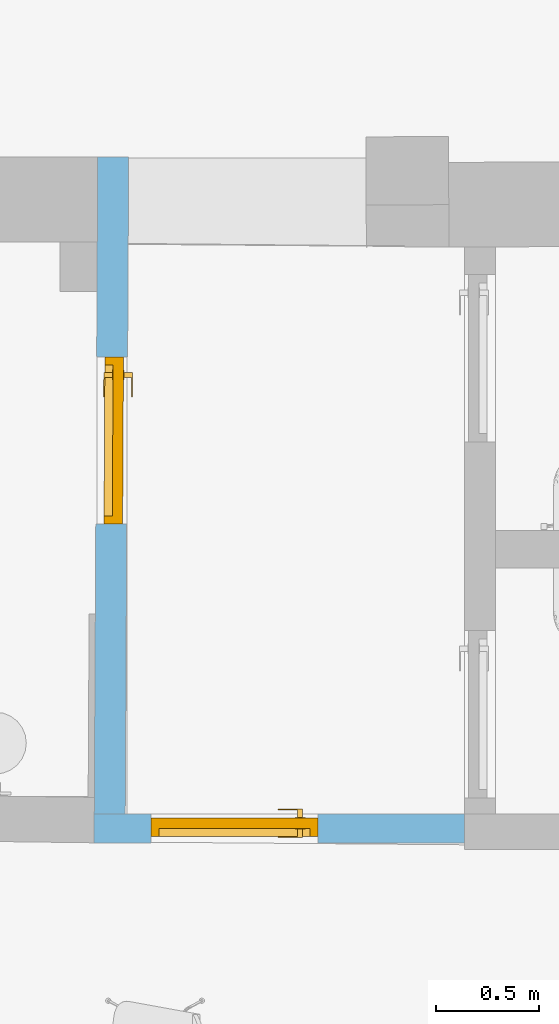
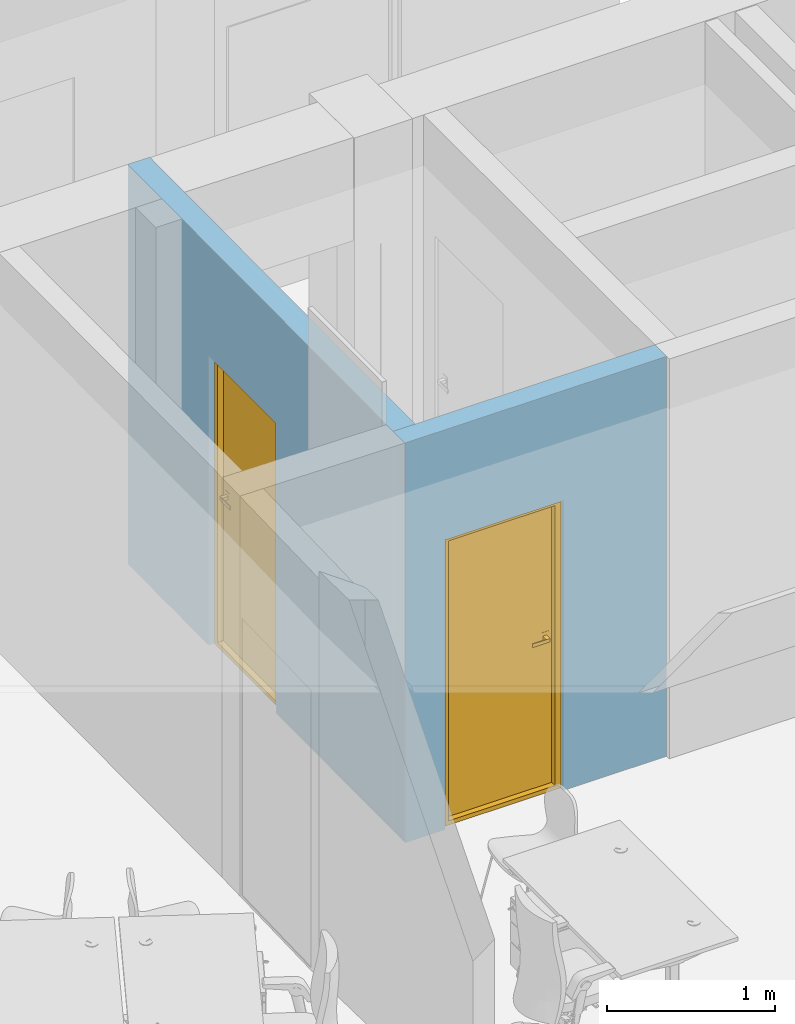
# One storey, part 10 of 19: 2 doors, 2 openings, plus 2 elements that do not belong to this part.
"""IFC2X3 building model written with IfcOpenShell, lengths in millimetres."""

import ifcopenshell
import ifcopenshell.guid

model = None  # the IFC model being written
_history = None  # IfcOwnerHistory: only IFC2X3 demands one
_inside = {}  # id of a spatial element -> (the spatial element, [elements in it])
_under = {}  # id of a project, library or spatial element -> (it, [spatial elements below it])
_declared = {}  # id of a project -> (the project, [libraries it declares])
_typed = {}  # id of a type object -> (the type object, [elements of that type])
_made_of = {}  # id of a material, layer set ... -> (it, [elements and type objects made of it])


def new_model(schema):
    """Start an empty IFC model of exactly this schema.

    Asked for "IFC4X3", IfcOpenShell would pick the latest addendum, in which some entities
    have other attributes; the version numbers below select the first issue.
    IFC2X3 requires an IfcOwnerHistory on every rooted entity: one is made here for all.
    """
    global model, _history
    if schema == "IFC4X3":
        model = ifcopenshell.file(schema_version=(4, 3, 0, 0))
    else:
        model = ifcopenshell.file(schema=schema)
    _inside.clear()
    _under.clear()
    _declared.clear()
    _typed.clear()
    _made_of.clear()
    _history = None
    if model.schema == "IFC2X3":
        org = make("IfcOrganization", Name="unknown")
        user = make(
            "IfcPersonAndOrganization",
            ThePerson=make("IfcPerson", FamilyName="unknown"),
            TheOrganization=org,
        )
        app = make(
            "IfcApplication",
            ApplicationDeveloper=org,
            Version="unknown",
            ApplicationFullName="unknown",
            ApplicationIdentifier="unknown",
        )
        _history = make(
            "IfcOwnerHistory",
            OwningUser=user,
            OwningApplication=app,
            ChangeAction="ADDED",
            CreationDate=0,
        )
    return model


def make(cls, **values):
    """One entity of the class cls with the attributes given. An attribute that is None is left unset."""
    return model.create_entity(
        cls, **{name: value for name, value in values.items() if value is not None}
    )


def entity(cls, *values):
    """Any entity or typed value of the class cls, its attributes in the order of the schema. None: left unset."""
    e = model.create_entity(cls)
    for i, value in enumerate(values):
        if value is not None:
            e[i] = value
    return e


def rooted(cls, **values):
    """An entity with a GlobalId (a new one), such as an element, a storey or a relation."""
    return make(cls, GlobalId=ifcopenshell.guid.new(), OwnerHistory=_history, **values)


def si_unit(unit_type, name, prefix=None):
    """IfcSIUnit, for example si_unit("LENGTHUNIT", "METRE", prefix="MILLI")."""
    return make("IfcSIUnit", UnitType=unit_type, Prefix=prefix, Name=name)


def converted_unit(unit_type, name, factor, base, dimensions=None, offset=None):
    """IfcConversionBasedUnit, such as the inch: factor (a typed value) times the base unit."""
    return make(
        "IfcConversionBasedUnit"
        if offset is None
        else "IfcConversionBasedUnitWithOffset",
        ConversionOffset=offset,
        Dimensions=None
        if dimensions is None
        else entity("IfcDimensionalExponents", *dimensions),
        UnitType=unit_type,
        Name=name,
        ConversionFactor=make(
            "IfcMeasureWithUnit", ValueComponent=factor, UnitComponent=base
        ),
    )


def derived_unit(unit_type, elements):
    """IfcDerivedUnit: a product of units, each with its exponent."""
    return make(
        "IfcDerivedUnit",
        Elements=[
            make("IfcDerivedUnitElement", Unit=unit, Exponent=power)
            for unit, power in elements
        ],
        UnitType=unit_type,
    )


def assignment(units):
    """IfcUnitAssignment: the units of a project."""
    return None if units is None else make("IfcUnitAssignment", Units=units)


def point(xyz):
    """IfcCartesianPoint."""
    return None if xyz is None else make("IfcCartesianPoint", Coordinates=xyz)


def direction(xyz):
    """IfcDirection."""
    return None if xyz is None else make("IfcDirection", DirectionRatios=xyz)


def frame(location, z_axis=None, x_axis=None):
    """IfcAxis2Placement3D, a coordinate frame: its origin and axes. An axis left out is left unset."""
    return make(
        "IfcAxis2Placement3D",
        Location=point(location),
        Axis=direction(z_axis),
        RefDirection=direction(x_axis),
    )


def frame_2d(location, x_axis=None):
    """IfcAxis2Placement2D, a coordinate frame in the plane: its origin and x axis."""
    return make(
        "IfcAxis2Placement2D", Location=point(location), RefDirection=direction(x_axis)
    )


def origin():
    """The frame at (0, 0, 0) with its axes left unset."""
    return frame((0.0, 0.0, 0.0))


def place(relative_to, where):
    """IfcLocalPlacement: puts the frame where relative to a parent placement (None: the world)."""
    return make(
        "IfcLocalPlacement", PlacementRelTo=relative_to, RelativePlacement=where
    )


def context(
    kind, dimensions, precision=None, world=None, true_north=None, identifier=None
):
    """IfcGeometricRepresentationContext, for example the 3D "Model" context."""
    return make(
        "IfcGeometricRepresentationContext",
        ContextIdentifier=identifier,
        ContextType=kind,
        CoordinateSpaceDimension=dimensions,
        Precision=precision,
        WorldCoordinateSystem=world,
        TrueNorth=true_north,
    )


def subcontext(parent, identifier, kind, view, scale=None):
    """IfcGeometricRepresentationSubContext, for example "Body" below "Model"."""
    return make(
        "IfcGeometricRepresentationSubContext",
        ContextIdentifier=identifier,
        ContextType=kind,
        ParentContext=parent,
        TargetScale=scale,
        TargetView=view,
    )


def project(units=None, contexts=None):
    """IfcProject with its units and contexts."""
    return rooted(
        "IfcProject",
        Name="project",
        RepresentationContexts=contexts,
        UnitsInContext=assignment(units),
    )


def spatial(cls, under=None, at=None, **own):
    """A site, building, storey or space (cls), placed at a placement, below another one or the project."""
    s = rooted(cls, ObjectPlacement=at, **own)
    if under is not None:
        _under.setdefault(under.id(), (under, []))[1].append(s)
    return s


def polyline(points):
    """IfcPolyline through the points."""
    return make("IfcPolyline", Points=[point(p) for p in points])


def profile(cls, at=None, kind="AREA", **sizes):
    """A parametric profile (cls). Its sizes go by their IFC names, for example OverallWidth=200.0."""
    return make(cls, ProfileType=kind, Position=at, **sizes)


def rectangle(**sizes):
    """IfcRectangleProfileDef."""
    return profile("IfcRectangleProfileDef", **sizes)


def outline(outer, holes=None, kind="AREA"):
    """IfcArbitraryClosedProfileDef: a profile drawn as a closed curve; with holes, ...WithVoids."""
    if holes is None:
        return make("IfcArbitraryClosedProfileDef", ProfileType=kind, OuterCurve=outer)
    return make(
        "IfcArbitraryProfileDefWithVoids",
        ProfileType=kind,
        OuterCurve=outer,
        InnerCurves=holes,
    )


def extrude(swept, where, along, depth):
    """IfcExtrudedAreaSolid: the profile swept, set in the frame where, extruded along a direction by depth."""
    return make(
        "IfcExtrudedAreaSolid",
        SweptArea=swept,
        Position=where,
        ExtrudedDirection=direction(along),
        Depth=depth,
    )


def clip(a, b, op="DIFFERENCE"):
    """IfcBooleanClippingResult: the solid a cut by the half space b."""
    return make(
        "IfcBooleanClippingResult", Operator=op, FirstOperand=a, SecondOperand=b
    )


def bounded_halfspace(plane, agree, where, boundary):
    """IfcPolygonalBoundedHalfSpace: a half space limited to a polygon's prism."""
    return make(
        "IfcPolygonalBoundedHalfSpace",
        BaseSurface=make("IfcPlane", Position=plane),
        AgreementFlag=agree,
        Position=where,
        PolygonalBoundary=boundary,
    )


def faces_of(points, faces, orient=None, outer=None):
    """IfcFace entities. A face is a list of loops; a loop is a list of indices into points, from 0.

    orient and outer hold one flag for each loop. By default every Orientation is true, the
    first loop of a face is its IfcFaceOuterBound and the others are IfcFaceBound.
    """
    made = []
    for i, loops in enumerate(faces):
        bounds = []
        for j, loop in enumerate(loops):
            is_outer = j == 0 if outer is None else outer[i][j]
            bounds.append(
                make(
                    "IfcFaceOuterBound" if is_outer else "IfcFaceBound",
                    Bound=make("IfcPolyLoop", Polygon=[points[k] for k in loop]),
                    Orientation=True if orient is None else orient[i][j],
                )
            )
        made.append(make("IfcFace", Bounds=bounds))
    return made


def faceted_brep(points, faces, orient=None, outer=None, voids=None):
    """IfcFacetedBrep: a solid bounded by flat faces; with voids (closed shells), ...WithVoids."""
    shared = [point(p) for p in points]
    hull = make("IfcClosedShell", CfsFaces=faces_of(shared, faces, orient, outer))
    if voids is None:
        return make("IfcFacetedBrep", Outer=hull)
    return make(
        "IfcFacetedBrepWithVoids",
        Outer=hull,
        Voids=[
            make(cls, CfsFaces=faces_of(shared, fs, o, b)) for cls, fs, o, b in voids
        ],
    )


def shape(context_of_items, identifier, shape_type, items):
    """IfcShapeRepresentation: the items that make up one representation, for example the "Body"."""
    return make(
        "IfcShapeRepresentation",
        ContextOfItems=context_of_items,
        RepresentationIdentifier=identifier,
        RepresentationType=shape_type,
        Items=items,
    )


def source(mapping_origin, context_of_items, identifier, shape_type, items):
    """IfcRepresentationMap: a shape defined once, which mapped items show again and again."""
    return make(
        "IfcRepresentationMap",
        MappingOrigin=mapping_origin,
        MappedRepresentation=shape(context_of_items, identifier, shape_type, items),
    )


def transform(
    local_origin,
    x_axis=None,
    y_axis=None,
    z_axis=None,
    scale=None,
    scale2=None,
    scale3=None,
    uniform=True,
):
    """IfcCartesianTransformationOperator3D, or its non-uniform kind. x_axis, y_axis, z_axis: its Axis1, 2, 3."""
    if uniform:
        return make(
            "IfcCartesianTransformationOperator3D",
            Axis1=direction(x_axis),
            Axis2=direction(y_axis),
            LocalOrigin=point(local_origin),
            Scale=scale,
            Axis3=direction(z_axis),
        )
    return make(
        "IfcCartesianTransformationOperator3DnonUniform",
        Axis1=direction(x_axis),
        Axis2=direction(y_axis),
        LocalOrigin=point(local_origin),
        Scale=scale,
        Axis3=direction(z_axis),
        Scale2=scale2,
        Scale3=scale3,
    )


def mapped(mapping_source, mapping_target):
    """IfcMappedItem: shows the shape of a source again, moved by a transform."""
    return make(
        "IfcMappedItem", MappingSource=mapping_source, MappingTarget=mapping_target
    )


def material(Name=None, Category=None):
    """IfcMaterial."""
    return make("IfcMaterial", Name=Name, Category=Category)


def material_list(materials):
    """IfcMaterialList."""
    return make("IfcMaterialList", Materials=materials)


def layer(
    of_material, thickness, ventilated=None, Name=None, Category=None, Priority=None
):
    """IfcMaterialLayer: one layer of a wall or slab, of a material (None: an air gap)."""
    return make(
        "IfcMaterialLayer",
        Material=of_material,
        LayerThickness=thickness,
        IsVentilated=ventilated,
        Name=Name,
        Category=Category,
        Priority=Priority,
    )


def layer_set(layers, Name=None):
    """IfcMaterialLayerSet."""
    return make("IfcMaterialLayerSet", MaterialLayers=layers, LayerSetName=Name)


def layer_usage(for_layer_set, set_direction, sense, offset, extent=None):
    """IfcMaterialLayerSetUsage: how a layer set lies in its element."""
    return make(
        "IfcMaterialLayerSetUsage",
        ForLayerSet=for_layer_set,
        LayerSetDirection=set_direction,
        DirectionSense=sense,
        OffsetFromReferenceLine=offset,
        ReferenceExtent=extent,
    )


def made_of(thing, what):
    """Note that an element or type object is made of a material, layer set ...; save() writes the relation."""
    if what is not None:
        _made_of.setdefault(what.id(), (what, []))[1].append(thing)
    return thing


def type_object(cls, material=None, **own):
    """A type object (cls), such as IfcWallType, which elements share."""
    return made_of(rooted(cls, **own), material)


def type_shapes(of_type, sources):
    """Give a type object the sources (RepresentationMaps) that its elements show as mapped items."""
    of_type.RepresentationMaps = sources


def element(
    cls,
    number,
    at=None,
    inside=None,
    cuts=None,
    type_object=None,
    material=None,
    context=None,
    identifier="Body",
    shape_type=None,
    held_by="IfcProductDefinitionShape",
    body=None,
    shapes=None,
    **own,
):
    """One element of the class cls, such as IfcWall. Its Tag is "e" and its number.

    at: its placement. inside: the storey or other place that contains it. cuts: it is an
    opening in that element (IfcRelVoidsElement). A single representation is given by context,
    identifier, shape_type and body (its items); several are given by shapes. held_by: the class
    of the entity that holds the representations. save() writes the other relations.
    """
    e = rooted(cls, Tag="e%d" % number, ObjectPlacement=at, **own)
    if body is not None:
        shapes = [shape(context, identifier, shape_type, body)]
    if shapes is not None:
        e.Representation = make(held_by, Representations=shapes)
    if inside is not None:
        _inside.setdefault(inside.id(), (inside, []))[1].append(e)
    if cuts is not None:
        rooted(
            "IfcRelVoidsElement", RelatingBuildingElement=cuts, RelatedOpeningElement=e
        )
    if type_object is not None:
        _typed.setdefault(type_object.id(), (type_object, []))[1].append(e)
    return made_of(e, material)


def fill(opening, filler):
    """IfcRelFillsElement: the door or window that sits in an opening."""
    return rooted(
        "IfcRelFillsElement",
        RelatingOpeningElement=opening,
        RelatedBuildingElement=filler,
    )


def aggregate(whole, parts):
    """IfcRelAggregates: a whole, such as a stair, and the parts it consists of."""
    return rooted("IfcRelAggregates", RelatingObject=whole, RelatedObjects=parts)


def save(model, path):
    """Write the relations noted so far, then the file.

    IfcRelAggregates (storeys below a building ...), IfcRelContainedInSpatialStructure (elements
    in a storey), IfcRelDefinesByType, IfcRelAssociatesMaterial and IfcRelDeclares: one each for
    every whole, place, type object, material and project.
    """
    for whole, parts in _under.values():
        aggregate(whole, parts)
    for where, things in _inside.values():
        rooted(
            "IfcRelContainedInSpatialStructure",
            RelatedElements=things,
            RelatingStructure=where,
        )
    for kind, things in _typed.values():
        rooted("IfcRelDefinesByType", RelatedObjects=things, RelatingType=kind)
    for what, things in _made_of.values():
        rooted("IfcRelAssociatesMaterial", RelatedObjects=things, RelatingMaterial=what)
    for by, libraries in _declared.values():
        rooted("IfcRelDeclares", RelatingContext=by, RelatedDefinitions=libraries)
    model.write(path)


model = new_model("IFC2X3")

# Units and contexts
model_context = context("Model", 3, precision=0.01, world=origin(), true_north=direction((6.12303176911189e-17, 1.0)))
context_of_model = context(None, 3, precision=0.01, world=origin(), true_north=direction((6.12303176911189e-17, 1.0)))
body_context = subcontext(model_context, "Body", "Model", "MODEL_VIEW")
ifc_project = project(units=[si_unit("LENGTHUNIT", "METRE", prefix="MILLI"), si_unit("AREAUNIT", "SQUARE_METRE"), si_unit("VOLUMEUNIT", "CUBIC_METRE"), converted_unit("PLANEANGLEUNIT", "DEGREE", entity("IfcRatioMeasure", 0.0174532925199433), si_unit("PLANEANGLEUNIT", "RADIAN"), dimensions=[0, 0, 0, 0, 0, 0, 0]), si_unit("MASSUNIT", "GRAM", prefix="KILO"), derived_unit("MASSDENSITYUNIT", [(si_unit("MASSUNIT", "GRAM", prefix="KILO"), 1), (si_unit("LENGTHUNIT", "METRE"), -3)]), si_unit("TIMEUNIT", "SECOND"), si_unit("FREQUENCYUNIT", "HERTZ"), si_unit("THERMODYNAMICTEMPERATUREUNIT", "DEGREE_CELSIUS"), derived_unit("THERMALTRANSMITTANCEUNIT", [(si_unit("MASSUNIT", "GRAM", prefix="KILO"), 1), (si_unit("THERMODYNAMICTEMPERATUREUNIT", "KELVIN"), -1), (si_unit("TIMEUNIT", "SECOND"), -3)]), derived_unit("VOLUMETRICFLOWRATEUNIT", [(si_unit("LENGTHUNIT", "METRE"), 3), (si_unit("TIMEUNIT", "SECOND"), -1)]), si_unit("ELECTRICCURRENTUNIT", "AMPERE"), si_unit("ELECTRICVOLTAGEUNIT", "VOLT"), si_unit("POWERUNIT", "WATT"), si_unit("FORCEUNIT", "NEWTON", prefix="KILO"), si_unit("ILLUMINANCEUNIT", "LUX"), si_unit("LUMINOUSFLUXUNIT", "LUMEN"), si_unit("LUMINOUSINTENSITYUNIT", "CANDELA"), derived_unit("USERDEFINED", [(si_unit("MASSUNIT", "GRAM", prefix="KILO"), -1), (si_unit("LENGTHUNIT", "METRE"), -2), (si_unit("TIMEUNIT", "SECOND"), 3), (si_unit("LUMINOUSFLUXUNIT", "LUMEN"), 1)]), derived_unit("LINEARVELOCITYUNIT", [(si_unit("LENGTHUNIT", "METRE"), 1), (si_unit("TIMEUNIT", "SECOND"), -1)]), si_unit("PRESSUREUNIT", "PASCAL"), derived_unit("USERDEFINED", [(si_unit("LENGTHUNIT", "METRE"), -2), (si_unit("MASSUNIT", "GRAM", prefix="KILO"), 1), (si_unit("TIMEUNIT", "SECOND"), -2)])], contexts=[model_context, context_of_model])

# Site, building, storey
site_placement = place(None, frame((121442.264707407, 135347.995453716, -1800.0)))
site = spatial("IfcSite", under=ifc_project, at=site_placement, Name="Surface", CompositionType="ELEMENT")
building_placement = place(site_placement, origin())
building = spatial("IfcBuilding", under=site, at=building_placement, CompositionType="ELEMENT")
storey_placement = place(building_placement, frame((0.0, 0.0, 5125.0)))
storey = spatial("IfcBuildingStorey", under=building, at=storey_placement, Name="2 korrus", CompositionType="ELEMENT", Elevation=5125.00000000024)

# Wall, opening, door
ifc_material_1 = material(Name="__Betoonelement")
ifc_layer_1 = layer(ifc_material_1, 150.0)
ifc_layer_set_1 = layer_set([ifc_layer_1], Name="Basic Wall:15_Betoon")
ifc_layer_usage_1 = layer_usage(ifc_layer_set_1, "AXIS2", "POSITIVE", -75.0)
wall_type_1 = type_object("IfcWallType", Name="Basic Wall:15_Betoon", PredefinedType="STANDARD", material=ifc_layer_set_1)
wall_1_placement = place(storey_placement, frame((-86953.8739707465, -124254.880032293, 0.0), z_axis=(0.0, 0.0, 1.0), x_axis=(0.00526575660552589, 0.999986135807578, 0.0)))
wall_1 = element("IfcWallStandardCase", 1, at=wall_1_placement, inside=storey, type_object=wall_type_1, material=ifc_layer_usage_1, Name="Basic Wall:15_Betoon", ObjectType="Basic Wall:15_Betoon", context=body_context, shape_type="Clipping", body=[
    clip(clip(clip(extrude(outline(polyline([(0.789874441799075, -75.0), (3181.96077080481, -75.0), (3181.17089636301, 75.0), (2771.16521197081, 75.0), (2531.1685393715, 73.7362184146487), (2531.161884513, 75.0), (80.1818955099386, 75.0), (0.0, 75.0), (0.789874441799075, -75.0)])), origin(), (0.0, 0.0, 1.0), 2897.0), bounded_halfspace(frame((0.789874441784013, -75.0, 2897.0), z_axis=(0.0, 0.0, -1.0), x_axis=(-0.999986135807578, -0.00526575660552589, 0.0)), True, frame((0.789874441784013, -75.0, 2897.0)), polyline([(0.0, 0.0), (3181.17089636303, 0.0), (3180.38102192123, 150.0), (2770.37533752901, 150.0), (2530.3786649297, 148.736218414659), (2530.37201007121, 150.0), (79.3920210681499, 150.0), (-0.789874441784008, 150.0), (0.0, 0.0)]))), bounded_halfspace(frame((2531.16853937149, 73.7362184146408, 0.0), z_axis=(0.00526575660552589, -0.999986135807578, 0.0), x_axis=(0.999986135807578, 0.00526575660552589, 0.0)), True, frame((2531.16853937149, 73.7362184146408, 0.0), z_axis=(0.00526575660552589, -0.999986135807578, 0.0), x_axis=(0.999986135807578, 0.00526575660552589, 0.0)), polyline([(0.0, 0.0), (240.0, 0.0), (240.0, 2897.0), (0.0, 2897.0), (0.0, 0.0)]))), bounded_halfspace(frame((2531.16853937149, 73.7362184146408, 2897.0), z_axis=(-0.999986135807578, -0.00526575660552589, 0.0), x_axis=(0.00526575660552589, -0.999986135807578, 0.0)), True, frame((2531.16853937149, 73.7362184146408, 2897.0), z_axis=(-0.999986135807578, -0.00526575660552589, 0.0), x_axis=(0.00526575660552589, -0.999986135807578, 0.0)), polyline([(0.0, 0.0), (-1.26379910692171, 0.0), (-1.26379910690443, -2897.0), (0.0, -2897.0), (0.0, 0.0)]))),
])
opening_1_placement = place(wall_1_placement, frame((2214.42491058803, 75.0, 0.0)))
opening_1 = element("IfcOpeningElement", 2, at=opening_1_placement, cuts=wall_1, Name="sma_D01:810 x 2110_SU-04 Siseuks:1", ObjectType="Opening", context=body_context, shape_type="SweptSolid", body=[
    extrude(rectangle(XDim=2099.99999999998, YDim=810.0, at=frame_2d((1049.99999999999, 405.0), x_axis=(1.0, 0.0))), frame((0.0, 0.0, 0.0), z_axis=(0.0, -1.0, 0.0), x_axis=(0.0, 0.0, 1.0)), (0.0, 0.0, 1.0), 150.0),
])
ifc_material_2 = material(Name="Metal - Aluminium")
ifc_material_3 = material(Name="Door - Panel_valge")
ifc_material_list_1 = material_list([ifc_material_2, ifc_material_3])
ifc_material_list_2 = material_list([ifc_material_2, ifc_material_3])
door_style_1 = type_object("IfcDoorStyle", Name="810 x 2110_SU-04 Siseuks", ConstructionType="NOTDEFINED", OperationType="SINGLE_SWING_RIGHT", ParameterTakesPrecedence=False, Sizeable=False, material=ifc_material_list_2)
shared_shape_1 = source(origin(), body_context, "Body", "Brep", [
    faceted_brep([(100.0, 40.0, 1112.5), (100.0, 78.0, 1112.5), (75.0, 78.0, 1112.5), (75.0, 35.0, 1112.5), (195.0, 35.0, 1112.5), (195.0, 40.0, 1112.5), (100.0, 40.0, 1087.5), (195.0, 40.0, 1087.5), (195.0, 35.0, 1087.5), (75.0, 35.0, 1087.5), (75.0, 78.0, 1087.5), (100.0, 78.0, 1087.5)], [[[0, 1, 2, 3, 4, 5]], [[6, 7, 8, 9, 10, 11]], [[1, 0, 6, 11]], [[2, 1, 11, 10]], [[3, 2, 10, 9]], [[4, 3, 9, 8]], [[5, 4, 8, 7]], [[0, 5, 7, 6]]]),
    faceted_brep([(112.5, 78.0, 1137.5), (112.5, 80.0, 1137.5), (62.4999999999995, 80.0, 1137.5), (62.4999999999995, 78.0, 1137.5), (112.5, 78.0, 1017.5), (62.4999999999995, 78.0, 1017.5), (62.4999999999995, 80.0, 1017.5), (112.5, 80.0, 1017.5)], [[[0, 1, 2, 3]], [[4, 5, 6, 7]], [[1, 0, 4, 7]], [[2, 1, 7, 6]], [[3, 2, 6, 5]], [[0, 3, 5, 4]]]),
    faceted_brep([(100.0, 170.0, 1112.5), (195.0, 170.0, 1112.5), (195.0, 175.0, 1112.5), (75.0, 175.0, 1112.5), (75.0, 132.0, 1112.5), (100.0, 132.0, 1112.5), (100.0, 170.0, 1087.5), (100.0, 132.0, 1087.5), (75.0, 132.0, 1087.5), (75.0, 175.0, 1087.5), (195.0, 175.0, 1087.5), (195.0, 170.0, 1087.5)], [[[0, 1, 2, 3, 4, 5]], [[6, 7, 8, 9, 10, 11]], [[5, 7, 6, 0]], [[4, 8, 7, 5]], [[3, 9, 8, 4]], [[2, 10, 9, 3]], [[1, 11, 10, 2]], [[0, 6, 11, 1]]]),
    faceted_brep([(112.5, 132.0, 1137.5), (62.4999999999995, 132.0, 1137.5), (62.4999999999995, 130.0, 1137.5), (112.5, 130.0, 1137.5), (112.5, 132.0, 1017.5), (112.5, 130.0, 1017.5), (62.4999999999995, 130.0, 1017.5), (62.4999999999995, 132.0, 1017.5)], [[[0, 1, 2, 3]], [[4, 5, 6, 7]], [[3, 5, 4, 0]], [[2, 6, 5, 3]], [[1, 7, 6, 2]], [[0, 4, 7, 1]]]),
    faceted_brep([(810.0, 40.0, 0.0), (770.0, 40.0, 0.0), (770.0, 80.0, 0.0), (785.0, 80.0, 0.0), (785.0, 130.0, 0.0), (810.0, 130.0, 0.0), (810.0, 40.0, 2100.0), (0.0, 40.0, 2100.0), (0.0, 40.0, 0.0), (40.0, 40.0, 0.0), (40.0, 40.0, 2060.0), (770.0, 40.0, 2060.0), (770.0, 80.0, 2060.0), (40.0, 80.0, 2060.0), (40.0, 80.0, 0.0), (25.0, 80.0, 0.0), (25.0, 80.0, 2075.0), (785.0, 80.0, 2075.0), (785.0, 130.0, 2075.0), (25.0, 130.0, 2075.0), (25.0, 130.0, 0.0), (0.0, 130.0, 0.0), (0.0, 130.0, 2100.0), (810.0, 130.0, 2100.0)], [[[0, 1, 2, 3, 4, 5]], [[1, 0, 6, 7, 8, 9, 10, 11]], [[2, 1, 11, 12]], [[3, 2, 12, 13, 14, 15, 16, 17]], [[4, 3, 17, 18]], [[5, 4, 18, 19, 20, 21, 22, 23]], [[0, 5, 23, 6]], [[7, 22, 21, 8]], [[8, 21, 20, 15, 14, 9]], [[13, 10, 9, 14]], [[19, 16, 15, 20]], [[12, 11, 10, 13]], [[18, 17, 16, 19]], [[6, 23, 22, 7]]]),
    faceted_brep([(25.0, 80.0, 2075.0), (25.0, 80.0, 20.0), (785.0, 80.0, 20.0), (785.0, 80.0, 2075.0), (25.0, 130.0, 2075.0), (785.0, 130.0, 2075.0), (785.0, 130.0, 20.0), (25.0, 130.0, 20.0)], [[[0, 1, 2, 3]], [[4, 5, 6, 7]], [[1, 0, 4, 7]], [[2, 1, 7, 6]], [[3, 2, 6, 5]], [[0, 3, 5, 4]]]),
    faceted_brep([(770.0, 40.0, 30.0), (770.0, 40.0, 0.0), (770.0, 80.0, 0.0), (770.0, 80.0, 20.0), (770.0, 80.0, 30.0), (40.0, 40.0, 30.0), (40.0, 80.0, 30.0), (40.0, 80.0, 20.0), (40.0, 80.0, 0.0), (40.0, 40.0, 0.0), (25.0, 80.0, 0.0), (25.0, 130.0, 0.0), (785.0, 130.0, 0.0), (785.0, 80.0, 0.0), (785.0, 130.0, 20.0), (785.0, 80.0, 20.0), (25.0, 130.0, 20.0), (25.0, 80.0, 20.0)], [[[0, 1, 2, 3, 4]], [[5, 6, 7, 8, 9]], [[1, 0, 5, 9]], [[2, 1, 9, 8, 10, 11, 12, 13]], [[6, 4, 3, 7]], [[0, 4, 6, 5]], [[14, 15, 13, 12]], [[16, 11, 10, 17]], [[15, 14, 16, 17, 7, 3]], [[13, 15, 3, 2]], [[14, 12, 11, 16]], [[17, 10, 8, 7]]]),
])
type_shapes(door_style_1, [shared_shape_1])
door_1_placement = place(opening_1_placement, frame((0.0, 0.0, 0.0), z_axis=(0.0, 0.0, 1.0), x_axis=(-1.0, 0.0, 0.0)))
door_1 = element("IfcDoor", 3, at=door_1_placement, inside=storey, type_object=door_style_1, material=ifc_material_list_1, Name="sma_D01:810 x 2110_SU-04 Siseuks", ObjectType="810 x 2110_SU-04 Siseuks", OverallHeight=2099.99999999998, OverallWidth=810.000000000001, context=body_context, shape_type="MappedRepresentation", body=[
    mapped(shared_shape_1, transform((0.0, 0.0, 0.0), scale=1.0)),
])
fill(opening_1, door_1)

ifc_layer_2 = layer(ifc_material_1, 140.0)
ifc_layer_set_2 = layer_set([ifc_layer_2], Name="Basic Wall:14_Betoon 2")
ifc_layer_usage_2 = layer_usage(ifc_layer_set_2, "AXIS2", "NEGATIVE", 70.0)
wall_type_2 = type_object("IfcWallType", Name="Basic Wall:14_Betoon 2", PredefinedType="STANDARD", material=ifc_layer_set_2)
wall_2_placement = place(storey_placement, frame((-85235.5367302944, -124324.485100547, 0.0), z_axis=(0.0, 0.0, 1.0), x_axis=(-1.0, 0.0, 0.0)))
wall_2 = element("IfcWallStandardCase", 4, at=wall_2_placement, inside=storey, type_object=wall_type_2, material=ifc_layer_usage_2, Name="Basic Wall:14_Betoon 2", ObjectType="Basic Wall:14_Betoon 2", context=body_context, shape_type="Clipping", body=[
    clip(extrude(outline(polyline([(0.0, -70.0), (1643.33412097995, -70.0), (1793.33620063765, -70.0), (1794.07341678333, 70.0), (0.0, 70.0), (0.0, -69.6079082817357), (0.0, -70.0)])), origin(), (0.0, 0.0, 1.0), 2897.0), bounded_halfspace(frame((0.0, -70.0, 2897.0), z_axis=(0.0, 0.0, -1.0), x_axis=(0.0, 1.0, 0.0)), True, frame((0.0, -70.0, 2897.0)), polyline([(0.0, 0.0), (1643.33412097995, 0.0), (1793.33620063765, 0.0), (1794.07341678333, 140.0), (0.0, 140.0), (0.0, 0.392091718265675), (0.0, 0.0)]))),
])
opening_2_placement = place(wall_2_placement, frame((1518.6388440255, 70.0, 0.0)))
opening_2 = element("IfcOpeningElement", 5, at=opening_2_placement, cuts=wall_2, Name="sma_D01:810 x 2110_SU-01 Siseuks:1", ObjectType="Opening", context=body_context, shape_type="SweptSolid", body=[
    extrude(rectangle(XDim=2099.99999999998, YDim=810.0, at=frame_2d((1049.99999999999, 405.000000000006), x_axis=(1.0, 0.0))), frame((0.0, 0.0, 0.0), z_axis=(0.0, -1.0, 0.0), x_axis=(0.0, 0.0, 1.0)), (0.0, 0.0, 1.0), 140.0),
])
ifc_material_list_3 = material_list([ifc_material_2, ifc_material_3])
ifc_material_list_4 = material_list([ifc_material_2, ifc_material_3])
door_style_2 = type_object("IfcDoorStyle", Name="810 x 2110_SU-01 Siseuks", ConstructionType="NOTDEFINED", OperationType="SINGLE_SWING_LEFT", ParameterTakesPrecedence=False, Sizeable=False, material=ifc_material_list_4)
shared_shape_2 = source(origin(), body_context, "Body", "Brep", [
    faceted_brep([(710.0, 30.0, 1112.5), (615.0, 30.0, 1112.5), (615.0, 25.0, 1112.5), (735.0, 25.0, 1112.5), (735.0, 68.0, 1112.5), (710.0, 68.0, 1112.5), (710.0, 30.0, 1087.5), (710.0, 68.0, 1087.5), (735.0, 68.0, 1087.5), (735.0, 25.0, 1087.5), (615.0, 25.0, 1087.5), (615.0, 30.0, 1087.5)], [[[0, 1, 2, 3, 4, 5]], [[6, 7, 8, 9, 10, 11]], [[5, 7, 6, 0]], [[4, 8, 7, 5]], [[3, 9, 8, 4]], [[2, 10, 9, 3]], [[1, 11, 10, 2]], [[0, 6, 11, 1]]]),
    faceted_brep([(697.500000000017, 68.0, 1137.5), (747.500000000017, 68.0, 1137.5), (747.500000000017, 70.0, 1137.5), (697.500000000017, 70.0, 1137.5), (697.500000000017, 68.0, 1017.5), (697.500000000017, 70.0, 1017.5), (747.500000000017, 70.0, 1017.5), (747.500000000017, 68.0, 1017.5)], [[[0, 1, 2, 3]], [[4, 5, 6, 7]], [[3, 5, 4, 0]], [[2, 6, 5, 3]], [[1, 7, 6, 2]], [[0, 4, 7, 1]]]),
    faceted_brep([(710.0, 160.0, 1112.5), (710.0, 122.0, 1112.5), (735.0, 122.0, 1112.5), (735.0, 165.0, 1112.5), (615.0, 165.0, 1112.5), (615.0, 160.0, 1112.5), (710.0, 160.0, 1087.5), (615.0, 160.0, 1087.5), (615.0, 165.0, 1087.5), (735.0, 165.0, 1087.5), (735.0, 122.0, 1087.5), (710.0, 122.0, 1087.5)], [[[0, 1, 2, 3, 4, 5]], [[6, 7, 8, 9, 10, 11]], [[1, 0, 6, 11]], [[2, 1, 11, 10]], [[3, 2, 10, 9]], [[4, 3, 9, 8]], [[5, 4, 8, 7]], [[0, 5, 7, 6]]]),
    faceted_brep([(697.500000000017, 122.0, 1137.5), (697.500000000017, 120.0, 1137.5), (747.500000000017, 120.0, 1137.5), (747.500000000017, 122.0, 1137.5), (697.500000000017, 122.0, 1017.5), (747.500000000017, 122.0, 1017.5), (747.500000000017, 120.0, 1017.5), (697.500000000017, 120.0, 1017.5)], [[[0, 1, 2, 3]], [[4, 5, 6, 7]], [[1, 0, 4, 7]], [[2, 1, 7, 6]], [[3, 2, 6, 5]], [[0, 3, 5, 4]]]),
    faceted_brep([(0.0, 30.0, 0.0), (0.0, 120.0, 0.0), (25.0, 120.0, 0.0), (25.0, 70.0, 0.0), (40.0, 70.0, 0.0), (40.0, 30.0, 0.0), (40.0, 30.0, 2060.0), (770.0, 30.0, 2060.0), (770.0, 30.0, 0.0), (810.0, 30.0, 0.0), (810.0, 30.0, 2100.0), (0.0, 30.0, 2100.0), (40.0, 70.0, 2060.0), (25.0, 70.0, 2075.0), (785.0, 70.0, 2075.0), (785.0, 70.0, 0.0), (770.0, 70.0, 0.0), (770.0, 70.0, 2060.0), (25.0, 120.0, 2075.0), (0.0, 120.0, 2100.0), (810.0, 120.0, 2100.0), (810.0, 120.0, 0.0), (785.0, 120.0, 0.0), (785.0, 120.0, 2075.0)], [[[0, 1, 2, 3, 4, 5]], [[5, 6, 7, 8, 9, 10, 11, 0]], [[4, 12, 6, 5]], [[3, 13, 14, 15, 16, 17, 12, 4]], [[2, 18, 13, 3]], [[1, 19, 20, 21, 22, 23, 18, 2]], [[0, 11, 19, 1]], [[10, 9, 21, 20]], [[9, 8, 16, 15, 22, 21]], [[17, 16, 8, 7]], [[23, 22, 15, 14]], [[12, 17, 7, 6]], [[18, 23, 14, 13]], [[11, 10, 20, 19]]]),
    faceted_brep([(785.0, 70.0, 2075.0), (25.0, 70.0, 2075.0), (25.0, 70.0, 20.0), (785.0, 70.0, 20.0), (785.0, 120.0, 2075.0), (785.0, 120.0, 20.0), (25.0, 120.0, 20.0), (25.0, 120.0, 2075.0)], [[[0, 1, 2, 3]], [[4, 5, 6, 7]], [[3, 5, 4, 0]], [[2, 6, 5, 3]], [[1, 7, 6, 2]], [[0, 4, 7, 1]]]),
    faceted_brep([(40.0, 30.0, 30.0), (40.0, 70.0, 30.0), (40.0, 70.0, 20.0), (40.0, 70.0, 0.0), (40.0, 30.0, 0.0), (770.0, 30.0, 30.0), (770.0, 30.0, 0.0), (770.0, 70.0, 0.0), (770.0, 70.0, 20.0), (770.0, 70.0, 30.0), (25.0, 70.0, 0.0), (25.0, 120.0, 0.0), (785.0, 120.0, 0.0), (785.0, 70.0, 0.0), (25.0, 120.0, 20.0), (25.0, 70.0, 20.0), (785.0, 120.0, 20.0), (785.0, 70.0, 20.0)], [[[0, 1, 2, 3, 4]], [[5, 6, 7, 8, 9]], [[4, 6, 5, 0]], [[3, 10, 11, 12, 13, 7, 6, 4]], [[9, 8, 2, 1]], [[0, 5, 9, 1]], [[14, 11, 10, 15]], [[16, 17, 13, 12]], [[15, 2, 8, 17, 16, 14]], [[10, 3, 2, 15]], [[14, 16, 12, 11]], [[17, 8, 7, 13]]]),
])
type_shapes(door_style_2, [shared_shape_2])
door_2_placement = place(opening_2_placement, frame((0.0, 0.0, 0.0), z_axis=(0.0, 0.0, 1.0), x_axis=(-1.0, 0.0, 0.0)))
door_2 = element("IfcDoor", 6, at=door_2_placement, inside=storey, type_object=door_style_2, material=ifc_material_list_3, Name="sma_D01:810 x 2110_SU-01 Siseuks", ObjectType="810 x 2110_SU-01 Siseuks", OverallHeight=2099.99999999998, OverallWidth=810.000000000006, context=body_context, shape_type="MappedRepresentation", body=[
    mapped(shared_shape_2, transform((0.0, 0.0, 0.0), scale=1.0)),
])
fill(opening_2, door_2)

save(model, "model.ifc")
